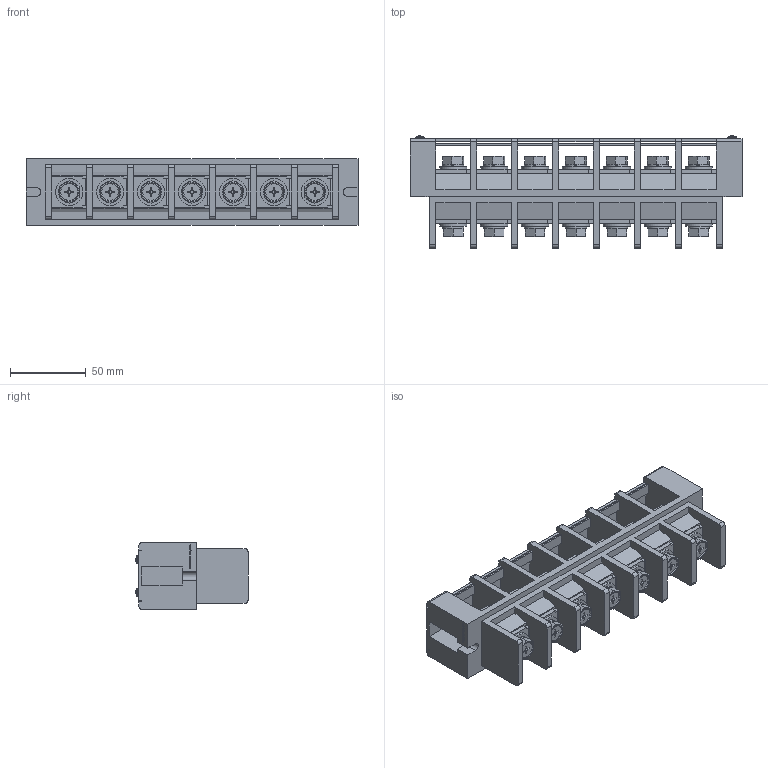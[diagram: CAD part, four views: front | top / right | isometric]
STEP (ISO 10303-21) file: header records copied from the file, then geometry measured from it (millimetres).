
FILE_DESCRIPTION(/* description */ ('Alibre Inc.'),/* implementation_level */ '2;1');
FILE_NAME(/* name */ 'export0',/* time_stamp */ '2016-04-05T18:42:06+09:00',/* author */ (''),/* organization */ (''),/* preprocessor_version */ 'ST-DEVELOPER v14',/* originating_system */ 'Alibre',/* authorisation */ '');
FILE_SCHEMA (('CONFIG_CONTROL_DESIGN'));
Length unit declared in the file: centimetre
Products named in the file (1): ID_1
Bounding box: 219 x 73.94 x 44 mm (x, y, z)
Volume: 259592.3 mm3; surface area: 117522.6 mm2
Topology: 2 solids, 4 shells, 1355 faces, 3701 edges, 2378 vertices
Faces by surface type: plane 1009, cone 176, cylinder 114, bspline 52, sphere 2, torus 2
Full cylindrical faces by diameter (mm): 3 x4, 5.5 x2, 8 x14, 18 x14
Entity records: 38299 total; most frequent: CARTESIAN_POINT 7562, ORIENTED_EDGE 7242, DIRECTION 4857, EDGE_CURVE 3621, VERTEX_POINT 2362, VECTOR 2279, LINE 2279, AXIS2_PLACEMENT_3D 1713
